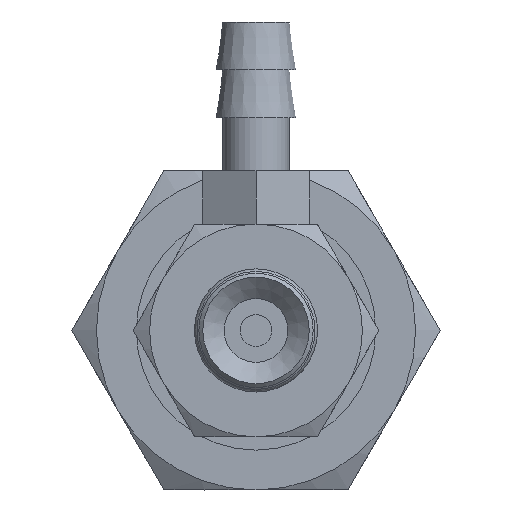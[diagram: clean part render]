
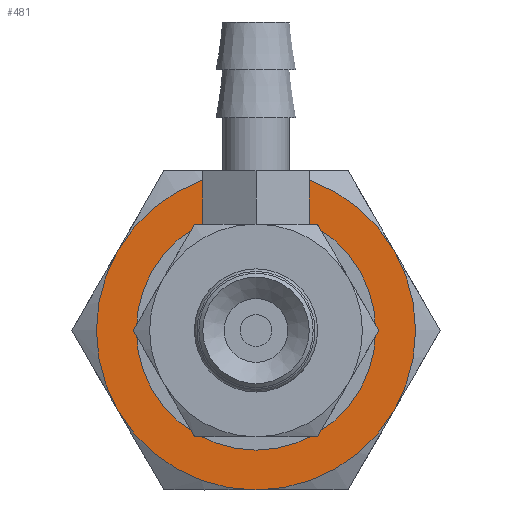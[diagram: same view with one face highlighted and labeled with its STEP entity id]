
A CAD part, front view. The second image highlights one B-rep face of the part: STEP entity #481.
In plain terms, the highlighted planar face has unit normal (0, -1, 0) as drawn and (-1, 0, 0) by its records, which use the part's own axes.
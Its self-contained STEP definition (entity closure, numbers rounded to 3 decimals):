
#481=ADVANCED_FACE('',(#652,#653),#654,.F.);
#652=FACE_BOUND('',#988,.T.);
#653=FACE_OUTER_BOUND('',#989,.T.);
#654=PLANE('',#990);
#988=EDGE_LOOP('',(#1446));
#989=EDGE_LOOP('',(#1447,#1448,#1449,#1450,#1451,#1452));
#990=AXIS2_PLACEMENT_3D('',#1453,#1454,#1455);
#1446=ORIENTED_EDGE('',*,*,#2213,.T.);
#1447=ORIENTED_EDGE('',*,*,#2185,.F.);
#1448=ORIENTED_EDGE('',*,*,#2219,.F.);
#1449=ORIENTED_EDGE('',*,*,#2176,.F.);
#1450=ORIENTED_EDGE('',*,*,#2192,.F.);
#1451=ORIENTED_EDGE('',*,*,#2220,.F.);
#1452=ORIENTED_EDGE('',*,*,#2221,.F.);
#1453=CARTESIAN_POINT('',(0.,0.0,0.0));
#1454=DIRECTION('',(1.0,0.0,0.0));
#1455=DIRECTION('',(0.0,1.0,0.0));
#2176=EDGE_CURVE('',#2435,#2436,#2437,.T.);
#2185=EDGE_CURVE('',#2451,#2453,#2454,.T.);
#2192=EDGE_CURVE('',#2465,#2435,#2466,.T.);
#2213=EDGE_CURVE('',#2499,#2499,#2500,.T.);
#2219=EDGE_CURVE('',#2436,#2451,#2506,.T.);
#2220=EDGE_CURVE('',#2490,#2465,#2507,.T.);
#2221=EDGE_CURVE('',#2453,#2490,#2508,.T.);
#2435=VERTEX_POINT('',#2869);
#2436=VERTEX_POINT('',#2870);
#2437=CIRCLE('',#2871,6.0);
#2451=VERTEX_POINT('',#2937);
#2453=VERTEX_POINT('',#2949);
#2454=CIRCLE('',#2950,6.0);
#2465=VERTEX_POINT('',#3003);
#2466=CIRCLE('',#3004,6.0);
#2490=VERTEX_POINT('',#3150);
#2499=VERTEX_POINT('',#3179);
#2500=CIRCLE('',#3180,4.0);
#2506=CIRCLE('',#3186,6.0);
#2507=CIRCLE('',#3187,6.0);
#2508=CIRCLE('',#3188,6.0);
#2869=CARTESIAN_POINT('',(0.,-5.196,-3.0));
#2870=CARTESIAN_POINT('',(0.,0.0,-6.0));
#2871=AXIS2_PLACEMENT_3D('',#3705,#3706,#3707);
#2937=CARTESIAN_POINT('',(0.,5.196,-3.0));
#2949=CARTESIAN_POINT('',(0.,5.196,3.0));
#2950=AXIS2_PLACEMENT_3D('',#3710,#3711,#3712);
#3003=CARTESIAN_POINT('',(0.,-5.196,3.0));
#3004=AXIS2_PLACEMENT_3D('',#3715,#3716,#3717);
#3150=CARTESIAN_POINT('',(0.,0.0,6.0));
#3179=CARTESIAN_POINT('',(0.,0.0,-4.0));
#3180=AXIS2_PLACEMENT_3D('',#3732,#3733,#3734);
#3186=AXIS2_PLACEMENT_3D('',#3750,#3751,#3752);
#3187=AXIS2_PLACEMENT_3D('',#3753,#3754,#3755);
#3188=AXIS2_PLACEMENT_3D('',#3756,#3757,#3758);
#3705=CARTESIAN_POINT('',(0.,0.0,0.0));
#3706=DIRECTION('',(1.0,0.0,0.0));
#3707=DIRECTION('',(0.0,0.0,-1.0));
#3710=CARTESIAN_POINT('',(0.,0.0,0.0));
#3711=DIRECTION('',(1.0,0.0,0.0));
#3712=DIRECTION('',(0.0,0.0,-1.0));
#3715=CARTESIAN_POINT('',(0.,0.0,0.0));
#3716=DIRECTION('',(1.0,0.0,0.0));
#3717=DIRECTION('',(0.0,0.0,-1.0));
#3732=CARTESIAN_POINT('',(0.,0.0,0.0));
#3733=DIRECTION('',(1.0,0.0,0.0));
#3734=DIRECTION('',(0.0,0.0,-1.0));
#3750=CARTESIAN_POINT('',(0.,0.0,0.0));
#3751=DIRECTION('',(1.0,0.0,0.0));
#3752=DIRECTION('',(0.0,0.0,-1.0));
#3753=CARTESIAN_POINT('',(0.,0.0,0.0));
#3754=DIRECTION('',(1.0,0.0,0.0));
#3755=DIRECTION('',(0.0,0.0,-1.0));
#3756=CARTESIAN_POINT('',(0.,0.0,0.0));
#3757=DIRECTION('',(1.0,0.0,0.0));
#3758=DIRECTION('',(0.0,0.0,-1.0));
